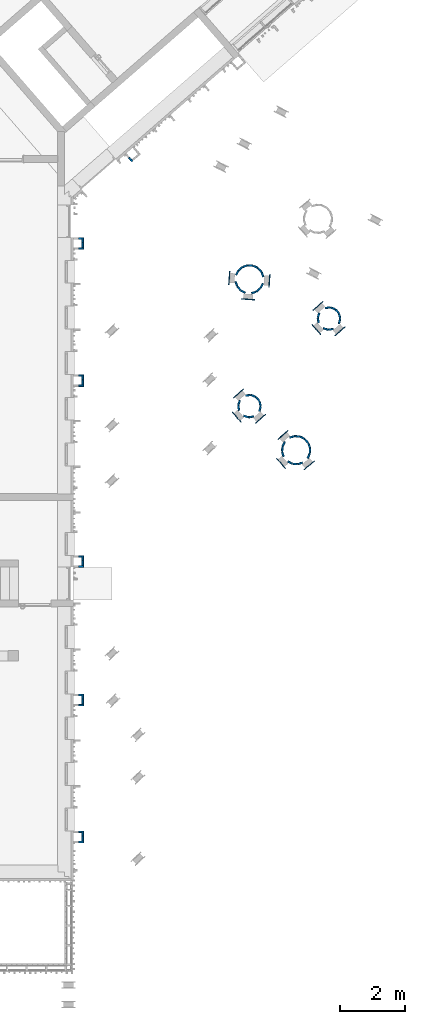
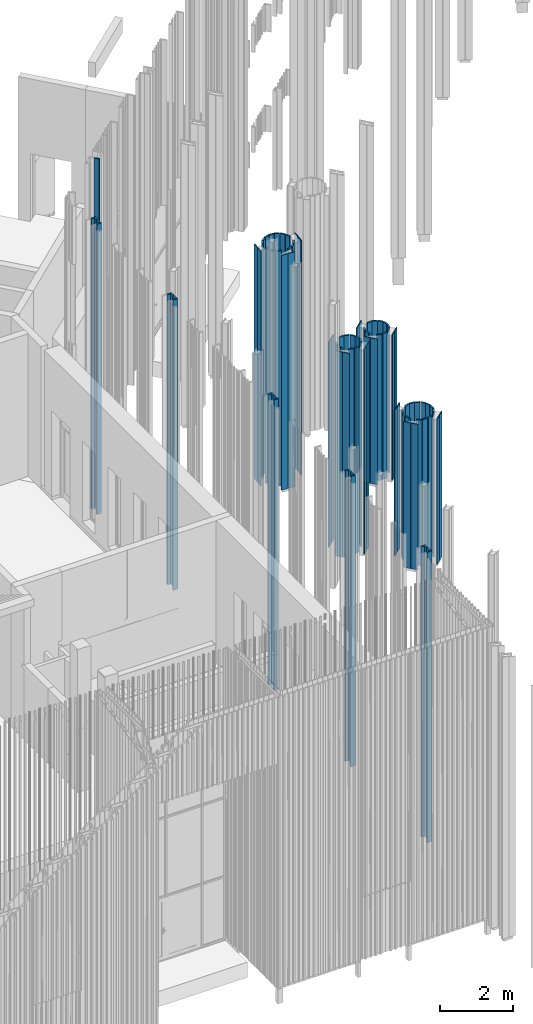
# One storey, part 18 of 390: 101 walls.
"""IFC2X3 building model written with IfcOpenShell, lengths in millimetres."""

from ifc_helpers import new_model, entity, si_unit, converted_unit, derived_unit, money_unit, direction, frame, origin_with_axes, origin_2d_with_axis, place, context, subcontext, project, spatial, rectangle, extrude, material, type_object, element, save


model = new_model("IFC2X3")

# Units and contexts
model_context = context("Model", 3, precision=1e-05, world=origin_with_axes(), true_north=direction((0.0, 1.0)))
body_context = subcontext(model_context, "Body", "Model", "MODEL_VIEW")
ifc_project = project(units=[si_unit("LENGTHUNIT", "METRE", prefix="MILLI"), si_unit("AREAUNIT", "SQUARE_METRE"), si_unit("VOLUMEUNIT", "CUBIC_METRE"), converted_unit("PLANEANGLEUNIT", "DEGREE", entity("IfcPlaneAngleMeasure", 0.0174532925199), si_unit("PLANEANGLEUNIT", "RADIAN"), dimensions=[0, 0, 0, 0, 0, 0, 0]), si_unit("SOLIDANGLEUNIT", "STERADIAN"), money_unit("EUR"), converted_unit("TIMEUNIT", "Year", entity("IfcTimeMeasure", 31556926.0), si_unit("TIMEUNIT", "SECOND"), dimensions=[0, 0, 1, 0, 0, 0, 0]), si_unit("MASSUNIT", "GRAM", prefix="KILO"), si_unit("THERMODYNAMICTEMPERATUREUNIT", "DEGREE_CELSIUS"), si_unit("LUMINOUSINTENSITYUNIT", "LUMEN"), si_unit("ENERGYUNIT", "JOULE", prefix="MEGA"), derived_unit("THERMALCONDUCTANCEUNIT", [(si_unit("POWERUNIT", "WATT"), 1), (si_unit("LENGTHUNIT", "METRE"), -1), (si_unit("THERMODYNAMICTEMPERATUREUNIT", "KELVIN"), -1)]), derived_unit("SPECIFICHEATCAPACITYUNIT", [(si_unit("ENERGYUNIT", "JOULE"), 1), (si_unit("MASSUNIT", "GRAM", prefix="KILO"), -1), (si_unit("THERMODYNAMICTEMPERATUREUNIT", "KELVIN"), -1)]), derived_unit("MASSDENSITYUNIT", [(si_unit("MASSUNIT", "GRAM", prefix="KILO"), 1), (si_unit("VOLUMEUNIT", "CUBIC_METRE"), -1)])], contexts=[model_context])

# Site, building, storey
site_placement = place(None, origin_with_axes())
site = spatial("IfcSite", under=ifc_project, at=site_placement, Name="Site", CompositionType="ELEMENT")
building_placement = place(site_placement, origin_with_axes())
building = spatial("IfcBuilding", under=site, at=building_placement, Name="Building", CompositionType="ELEMENT")
storey_placement = place(building_placement, origin_with_axes())
storey = spatial("IfcBuildingStorey", under=building, at=storey_placement, Name="1 korrus", CompositionType="ELEMENT", Elevation=0.0)

# Walls
ifc_material_1 = material(Name="GENEERILINE - VÄLINE VOODER")
wall_type = type_object("IfcWallType", Name="Puitfassaadi ribisik", PredefinedType="NOTDEFINED")
for number, where, z_axis, x_axis in (
    (1, (147091.673209, 58083.9654411, 100.0), (0.0, 0.0, 1.0), (0.656079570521, -0.754691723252, 0.0)),
    (2, (146280.800229, 59016.742536, 100.0), (0.0, 0.0, 1.0), (-0.65605903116, 0.754709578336, 0.0)),
):
    element("IfcWall", number, at=place(storey_placement, frame(where, z_axis=z_axis, x_axis=x_axis)), inside=storey, type_object=wall_type, material=ifc_material_1, Name="GENEERILINE - VÄLINE VOODER", context=body_context, shape_type="SweptSolid", body=[
        extrude(rectangle(XDim=22.0, YDim=200.0, at=origin_2d_with_axis()), frame((0.0, 0.0, 0.0), z_axis=(0.0, 0.0, -1.0), x_axis=(-1.0, 0.0, 0.0)), (0.0, 0.0, -1.0), 4900.0),
    ])
wall_1_placement = place(storey_placement, frame((145799.103484, 63781.0930163, 100.0), z_axis=(0.0, 0.0, 1.0), x_axis=(0.99756594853, -0.0697293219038, 0.0)))
element("IfcWall", 3, at=wall_1_placement, inside=storey, type_object=wall_type, material=ifc_material_1, Name="GENEERILINE - VÄLINE VOODER", context=body_context, shape_type="SweptSolid", body=[
    extrude(rectangle(XDim=22.0, YDim=200.0, at=origin_2d_with_axis()), frame((0.0, 0.0, 0.0), z_axis=(0.0, 0.0, -1.0), x_axis=(-1.0, 0.0, 0.0)), (0.0, 0.0, -1.0), 7900.0),
])
ifc_material_2 = material(Name="Site specified")
for number, where, z_axis, x_axis, name in (
    (4, (140067.000054, 46721.8243845, 100.000000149), (0.0, 0.0, 1.0), (1.0, -1.92421320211e-07, 0.0), "Site specified"),
    (5, (140067.000053, 55171.824385, 100.000000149), (0.0, 0.0, 1.0), (1.0, -1.92421320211e-07, 0.0), "Site specified"),
):
    element("IfcWall", number, at=place(storey_placement, frame(where, z_axis=z_axis, x_axis=x_axis)), inside=storey, type_object=wall_type, material=ifc_material_2, Name=name, context=body_context, shape_type="SweptSolid", body=[
        extrude(rectangle(XDim=50.0, YDim=150.0, at=origin_2d_with_axis()), origin_with_axes(), (0.0, 0.0, 1.0), 9764.99999475),
    ])
wall_2_placement = place(storey_placement, frame((139992.000027, 64971.9999692, 100.000000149), z_axis=(0.0, 0.0, 1.0), x_axis=(-1.92421249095e-07, -1.0, 0.0)))
element("IfcWall", 6, at=wall_2_placement, inside=storey, type_object=wall_type, material=ifc_material_2, Name="Site specified", context=body_context, shape_type="SweptSolid", body=[
    extrude(rectangle(XDim=50.0, YDim=100.000069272, at=origin_2d_with_axis()), origin_with_axes(), (0.0, 0.0, 1.0), 9764.99999475),
])
wall_3_placement = place(storey_placement, frame((140067.000052, 64921.9999223, 100.000000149), z_axis=(0.0, 0.0, 1.0), x_axis=(1.0, -1.92421320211e-07, 0.0)))
element("IfcWall", 7, at=wall_3_placement, inside=storey, type_object=wall_type, material=ifc_material_2, Name="Site specified", context=body_context, shape_type="SweptSolid", body=[
    extrude(rectangle(XDim=50.0, YDim=150.0, at=origin_2d_with_axis()), origin_with_axes(), (0.0, 0.0, 1.0), 9764.99999475),
])
wall_4_placement = place(storey_placement, frame((141534.480156, 67393.0355315, 100.0), z_axis=(0.0, 0.0, 1.0), x_axis=(-0.754709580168, -0.656059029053, 0.0)))
element("IfcWall", 8, at=wall_4_placement, inside=storey, type_object=wall_type, material=ifc_material_2, Name="Site specified", context=body_context, shape_type="SweptSolid", body=[
    extrude(rectangle(XDim=50.0, YDim=150.0, at=origin_2d_with_axis()), origin_with_axes(), (0.0, 0.0, 1.0), 9764.9999949),
])
for number, where, z_axis, x_axis, name in (
    (9, (140067.000053, 60715.0584355, 100.000000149), (0.0, 0.0, 1.0), (1.0, -1.92421320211e-07, 0.0), "Site specified"),
    (10, (140067.000023, 60560.0584355, 100.000000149), (0.0, 0.0, 1.0), (1.0, -1.92421320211e-07, 0.0), "Site specified"),
):
    element("IfcWall", number, at=place(storey_placement, frame(where, z_axis=z_axis, x_axis=x_axis)), inside=storey, type_object=wall_type, material=ifc_material_2, Name=name, context=body_context, shape_type="SweptSolid", body=[
        extrude(rectangle(XDim=50.0, YDim=150.0, at=origin_2d_with_axis()), origin_with_axes(), (0.0, 0.0, 1.0), 9764.99999475),
    ])
for number, where, z_axis, x_axis, name in (
    (11, (139992.000029, 46771.8244314, 100.000000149), (0.0, 0.0, 1.0), (-1.92421249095e-07, -1.0, 0.0), "Site specified"),
    (12, (139992.000028, 60765.0584824, 100.000000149), (0.0, 0.0, 1.0), (-1.92421249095e-07, -1.0, 0.0), "Site specified"),
):
    element("IfcWall", number, at=place(storey_placement, frame(where, z_axis=z_axis, x_axis=x_axis)), inside=storey, type_object=wall_type, material=ifc_material_2, Name=name, context=body_context, shape_type="SweptSolid", body=[
        extrude(rectangle(XDim=50.0, YDim=100.000069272, at=origin_2d_with_axis()), origin_with_axes(), (0.0, 0.0, 1.0), 9764.99999475),
    ])
wall_5_placement = place(storey_placement, frame((140067.000024, 46566.8243845, 100.000000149), z_axis=(0.0, 0.0, 1.0), x_axis=(1.0, -1.92421320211e-07, 0.0)))
element("IfcWall", 13, at=wall_5_placement, inside=storey, type_object=wall_type, material=ifc_material_2, Name="Site specified", context=body_context, shape_type="SweptSolid", body=[
    extrude(rectangle(XDim=50.0, YDim=150.0, at=origin_2d_with_axis()), origin_with_axes(), (0.0, 0.0, 1.0), 9764.99999475),
])
wall_6_placement = place(storey_placement, frame((145784.460327, 63571.6041671, 100.0), z_axis=(0.0, 0.0, 1.0), x_axis=(0.99756594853, -0.0697293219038, 0.0)))
element("IfcWall", 14, at=wall_6_placement, inside=storey, type_object=wall_type, material=ifc_material_1, Name="GENEERILINE - VÄLINE VOODER", context=body_context, shape_type="SweptSolid", body=[
    extrude(rectangle(XDim=22.0, YDim=200.0, at=origin_2d_with_axis()), frame((0.0, 0.0, 0.0), z_axis=(0.0, 0.0, -1.0), x_axis=(-1.0, 0.0, 0.0)), (0.0, 0.0, -1.0), 7900.0),
])
wall_7_placement = place(storey_placement, frame((140017.000003, 60455.0584452, 100.000000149), z_axis=(0.0, 0.0, 1.0), x_axis=(-1.92421249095e-07, -1.0, 0.0)))
element("IfcWall", 15, at=wall_7_placement, inside=storey, type_object=wall_type, material=ifc_material_2, Name="Site specified", context=body_context, shape_type="SweptSolid", body=[
    extrude(rectangle(XDim=50.0, YDim=150.0, at=origin_2d_with_axis()), origin_with_axes(), (0.0, 0.0, 1.0), 9764.99999475),
])
wall_8_placement = place(storey_placement, frame((139992.000028, 50971.8244314, 100.000000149), z_axis=(0.0, 0.0, 1.0), x_axis=(-1.92421249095e-07, -1.0, 0.0)))
element("IfcWall", 16, at=wall_8_placement, inside=storey, type_object=wall_type, material=ifc_material_2, Name="Site specified", context=body_context, shape_type="SweptSolid", body=[
    extrude(rectangle(XDim=50.0, YDim=100.000069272, at=origin_2d_with_axis()), origin_with_axes(), (0.0, 0.0, 1.0), 9764.99999475),
])
for number, where, z_axis, x_axis, name in (
    (17, (140067.000053, 50921.8243845, 100.000000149), (0.0, 0.0, 1.0), (1.0, -1.92421320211e-07, 0.0), "Site specified"),
    (18, (140017.000004, 46461.8243941, 100.000000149), (0.0, 0.0, 1.0), (-1.92421249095e-07, -1.0, 0.0), "Site specified"),
):
    element("IfcWall", number, at=place(storey_placement, frame(where, z_axis=z_axis, x_axis=x_axis)), inside=storey, type_object=wall_type, material=ifc_material_2, Name=name, context=body_context, shape_type="SweptSolid", body=[
        extrude(rectangle(XDim=50.0, YDim=150.0, at=origin_2d_with_axis()), origin_with_axes(), (0.0, 0.0, 1.0), 9764.99999475),
    ])
for number, where, z_axis, x_axis in (
    (19, (144774.423347, 63583.9117334, 100.0), (0.0, 0.0, 1.0), (0.947901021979, 0.318564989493, 0.0)),
    (20, (145362.57281, 64101.7832907, 100.0), (0.0, 0.0, 1.0), (-0.435980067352, -0.899956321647, 0.0)),
):
    element("IfcWall", number, at=place(storey_placement, frame(where, z_axis=z_axis, x_axis=x_axis)), inside=storey, type_object=wall_type, material=ifc_material_1, Name="GENEERILINE - VÄLINE VOODER", context=body_context, shape_type="SweptSolid", body=[
        extrude(rectangle(XDim=50.0, YDim=150.0, at=origin_2d_with_axis()), origin_with_axes(), (0.0, 0.0, 1.0), 7900.0),
    ])
wall_9_placement = place(storey_placement, frame((144551.507833, 63657.803792, 100.0), z_axis=(0.0, 0.0, 1.0), x_axis=(-0.99756405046, 0.0697564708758, 0.0)))
element("IfcWall", 21, at=wall_9_placement, inside=storey, type_object=wall_type, material=ifc_material_1, Name="GENEERILINE - VÄLINE VOODER", context=body_context, shape_type="SweptSolid", body=[
    extrude(rectangle(XDim=22.0, YDim=200.0, at=origin_2d_with_axis()), frame((0.0, 0.0, 0.0), z_axis=(0.0, 0.0, -1.0), x_axis=(-1.0, 0.0, 0.0)), (0.0, 0.0, -1.0), 7900.0),
])
wall_10_placement = place(storey_placement, frame((146124.908688, 58875.9820833, 100.0), z_axis=(0.0, 0.0, 1.0), x_axis=(-0.656059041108, 0.754709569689, 0.0)))
element("IfcWall", 22, at=wall_10_placement, inside=storey, type_object=wall_type, material=ifc_material_1, Name="GENEERILINE - VÄLINE VOODER", context=body_context, shape_type="SweptSolid", body=[
    extrude(rectangle(XDim=22.0, YDim=200.0, at=origin_2d_with_axis()), frame((0.0, 0.0, 0.0), z_axis=(0.0, 0.0, -1.0), x_axis=(-1.0, 0.0, 0.0)), (0.0, 0.0, -1.0), 4900.0),
])
wall_11_placement = place(storey_placement, frame((144981.539416, 63342.0617155, 100.0), z_axis=(0.0, 0.0, 1.0), x_axis=(0.460569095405, 0.887623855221, 0.0)))
element("IfcWall", 23, at=wall_11_placement, inside=storey, type_object=wall_type, material=ifc_material_1, Name="GENEERILINE - VÄLINE VOODER", context=body_context, shape_type="SweptSolid", body=[
    extrude(rectangle(XDim=50.0, YDim=150.0, at=origin_2d_with_axis()), origin_with_axes(), (0.0, 0.0, 1.0), 7900.0),
])
wall_12_placement = place(storey_placement, frame((144566.156692, 63867.2922426, 100.0), z_axis=(0.0, 0.0, 1.0), x_axis=(-0.99756405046, 0.0697564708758, 0.0)))
element("IfcWall", 24, at=wall_12_placement, inside=storey, type_object=wall_type, material=ifc_material_1, Name="GENEERILINE - VÄLINE VOODER", context=body_context, shape_type="SweptSolid", body=[
    extrude(rectangle(XDim=22.0, YDim=200.0, at=origin_2d_with_axis()), frame((0.0, 0.0, 0.0), z_axis=(0.0, 0.0, -1.0), x_axis=(-1.0, 0.0, 0.0)), (0.0, 0.0, -1.0), 7900.0),
])
for number, where, z_axis, x_axis in (
    (25, (145453.726053, 63396.4965134, 100.0), (0.0, 0.0, 1.0), (-0.650458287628, 0.759541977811, 0.0)),
    (26, (144802.028551, 63918.8272621, 100.0), (0.0, 0.0, 1.0), (0.882947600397, -0.469471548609, 0.0)),
    (27, (145206.927776, 64143.2665758, 100.0), (0.0, 0.0, 1.0), (-0.0697564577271, -0.99756405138, 0.0)),
    (28, (144904.096542, 64044.8707379, 100.0), (0.0, 0.0, 1.0), (0.642787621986, -0.766044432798, 0.0)),
    (29, (145492.360663, 64004.5210384, 100.0), (0.0, 0.0, 1.0), (-0.741363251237, -0.671103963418, 0.0)),
):
    element("IfcWall", number, at=place(storey_placement, frame(where, z_axis=z_axis, x_axis=x_axis)), inside=storey, type_object=wall_type, material=ifc_material_1, Name="GENEERILINE - VÄLINE VOODER", context=body_context, shape_type="SweptSolid", body=[
        extrude(rectangle(XDim=50.0, YDim=150.0, at=origin_2d_with_axis()), origin_with_axes(), (0.0, 0.0, 1.0), 7900.0),
    ])
for number, where, z_axis, x_axis, name in (
    (30, (140017.000003, 54911.8243946, 100.000000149), (0.0, 0.0, 1.0), (-1.92421249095e-07, -1.0, 0.0), "Site specified"),
    (31, (140067.000023, 55016.824385, 100.000000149), (0.0, 0.0, 1.0), (1.0, -1.92421320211e-07, 0.0), "Site specified"),
):
    element("IfcWall", number, at=place(storey_placement, frame(where, z_axis=z_axis, x_axis=x_axis)), inside=storey, type_object=wall_type, material=ifc_material_2, Name=name, context=body_context, shape_type="SweptSolid", body=[
        extrude(rectangle(XDim=50.0, YDim=150.0, at=origin_2d_with_axis()), origin_with_axes(), (0.0, 0.0, 1.0), 9764.99999475),
    ])
wall_13_placement = place(storey_placement, frame((139992.000028, 55221.8244319, 100.000000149), z_axis=(0.0, 0.0, 1.0), x_axis=(-1.92421249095e-07, -1.0, 0.0)))
element("IfcWall", 32, at=wall_13_placement, inside=storey, type_object=wall_type, material=ifc_material_2, Name="Site specified", context=body_context, shape_type="SweptSolid", body=[
    extrude(rectangle(XDim=50.0, YDim=100.000069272, at=origin_2d_with_axis()), origin_with_axes(), (0.0, 0.0, 1.0), 9764.99999475),
])
for number, where, z_axis, x_axis, name in (
    (33, (140017.000002, 64661.9999319, 100.000000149), (0.0, 0.0, 1.0), (-1.92421249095e-07, -1.0, 0.0), "Site specified"),
    (34, (140067.000022, 64766.9999223, 100.000000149), (0.0, 0.0, 1.0), (1.0, -1.92421320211e-07, 0.0), "Site specified"),
    (35, (140067.000023, 50766.8243845, 100.000000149), (0.0, 0.0, 1.0), (1.0, -1.92421320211e-07, 0.0), "Site specified"),
    (36, (140017.000003, 50661.8243941, 100.000000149), (0.0, 0.0, 1.0), (-1.92421249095e-07, -1.0, 0.0), "Site specified"),
):
    element("IfcWall", number, at=place(storey_placement, frame(where, z_axis=z_axis, x_axis=x_axis)), inside=storey, type_object=wall_type, material=ifc_material_2, Name=name, context=body_context, shape_type="SweptSolid", body=[
        extrude(rectangle(XDim=50.0, YDim=150.0, at=origin_2d_with_axis()), origin_with_axes(), (0.0, 0.0, 1.0), 9764.99999475),
    ])
for number, where, z_axis, x_axis in (
    (37, (145235.453421, 59500.3718897, 100.0), (0.0, 0.0, 1.0), (0.173648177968, -0.984807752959, 0.0)),
    (38, (145073.760588, 59511.678554, 100.0), (0.0, 0.0, 1.0), (-0.309016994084, -0.95105651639, 0.0)),
    (39, (145503.695253, 59905.6410903, 100.0), (0.0, 0.0, 1.0), (0.974370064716, 0.224951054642, 0.0)),
):
    element("IfcWall", number, at=place(storey_placement, frame(where, z_axis=z_axis, x_axis=x_axis)), inside=storey, type_object=wall_type, material=ifc_material_1, Name="GENEERILINE - VÄLINE VOODER", context=body_context, shape_type="SweptSolid", body=[
        extrude(rectangle(XDim=50.0, YDim=150.0, at=origin_2d_with_axis()), frame((0.0, 0.0, 0.0), z_axis=(0.0, 0.0, -1.0), x_axis=(-1.0, 0.0, 0.0)), (0.0, 0.0, -1.0), 6900.0),
    ])
wall_14_placement = place(storey_placement, frame((147298.328602, 62618.6351305, 100.0), z_axis=(0.0, 0.0, 1.0), x_axis=(-0.95105651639, 0.309016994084, 0.0)))
element("IfcWall", 40, at=wall_14_placement, inside=storey, type_object=wall_type, material=ifc_material_1, Name="GENEERILINE - VÄLINE VOODER", context=body_context, shape_type="SweptSolid", body=[
    extrude(rectangle(XDim=50.0, YDim=150.0, at=origin_2d_with_axis()), frame((0.0, 0.0, 0.0), z_axis=(0.0, 0.0, -1.0), x_axis=(-1.0, 0.0, 0.0)), (0.0, 0.0, -1.0), 4900.0),
])
for number, where, z_axis, x_axis in (
    (41, (147158.616193, 62255.8324843, 100.0), (0.0, 0.0, 1.0), (-0.754709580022, -0.656059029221, 0.0)),
    (42, (147199.16157, 62835.658384, 100.0), (0.0, 0.0, 1.0), (-0.65605902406, 0.754709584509, 0.0)),
):
    element("IfcWall", number, at=place(storey_placement, frame(where, z_axis=z_axis, x_axis=x_axis)), inside=storey, type_object=wall_type, material=ifc_material_1, Name="GENEERILINE - VÄLINE VOODER", context=body_context, shape_type="SweptSolid", body=[
        extrude(rectangle(XDim=22.0, YDim=200.0, at=origin_2d_with_axis()), frame((0.0, 0.0, 0.0), z_axis=(0.0, 0.0, -1.0), x_axis=(-1.0, 0.0, 0.0)), (0.0, 0.0, -1.0), 4900.0),
    ])
for number, where, z_axis, x_axis in (
    (43, (144847.370684, 59772.1103473, 100.0), (0.0, 0.0, 1.0), (-0.984807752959, -0.173648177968, 0.0)),
    (44, (144858.677348, 59933.80318, 100.0), (0.0, 0.0, 1.0), (-0.95105651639, 0.309016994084, 0.0)),
    (45, (145297.334544, 60143.0319299, 100.0), (0.0, 0.0, 1.0), (0.35836794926, 0.933580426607, 0.0)),
):
    element("IfcWall", number, at=place(storey_placement, frame(where, z_axis=z_axis, x_axis=x_axis)), inside=storey, type_object=wall_type, material=ifc_material_1, Name="GENEERILINE - VÄLINE VOODER", context=body_context, shape_type="SweptSolid", body=[
        extrude(rectangle(XDim=50.0, YDim=150.0, at=origin_2d_with_axis()), frame((0.0, 0.0, 0.0), z_axis=(0.0, 0.0, -1.0), x_axis=(-1.0, 0.0, 0.0)), (0.0, 0.0, -1.0), 6900.0),
    ])
wall_15_placement = place(storey_placement, frame((147287.021938, 62456.9422978, 100.0), z_axis=(0.0, 0.0, 1.0), x_axis=(-0.984807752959, -0.173648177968, 0.0)))
element("IfcWall", 46, at=wall_15_placement, inside=storey, type_object=wall_type, material=ifc_material_1, Name="GENEERILINE - VÄLINE VOODER", context=body_context, shape_type="SweptSolid", body=[
    extrude(rectangle(XDim=50.0, YDim=150.0, at=origin_2d_with_axis()), frame((0.0, 0.0, 0.0), z_axis=(0.0, 0.0, -1.0), x_axis=(-1.0, 0.0, 0.0)), (0.0, 0.0, -1.0), 4900.0),
])
for number, where, z_axis, x_axis in (
    (47, (147158.616193, 62255.8324843, 100.0), (0.0, 0.0, 1.0), (-0.754709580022, -0.656059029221, 0.0)),
    (48, (147296.38859, 62097.3434725, 100.0), (0.0, 0.0, 1.0), (-0.754709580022, -0.656059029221, 0.0)),
    (49, (148034.7035, 62194.5704936, 100.0), (0.0, 0.0, 1.0), (0.65605903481, -0.754709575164, 0.0)),
    (50, (147357.650583, 62973.430779, 100.0), (0.0, 0.0, 1.0), (-0.65605902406, 0.754709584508, 0.0)),
    (51, (147199.16157, 62835.658384, 100.0), (0.0, 0.0, 1.0), (-0.65605902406, 0.754709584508, 0.0)),
    (52, (147876.214489, 62056.7980963, 100.0), (0.0, 0.0, 1.0), (0.65605903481, -0.754709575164, 0.0)),
    (53, (146933.187947, 57946.1887313, 100.0), (0.0, 0.0, 1.0), (0.656079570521, -0.754691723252, 0.0)),
):
    element("IfcWall", number, at=place(storey_placement, frame(where, z_axis=z_axis, x_axis=x_axis)), inside=storey, type_object=wall_type, material=ifc_material_1, Name="GENEERILINE - VÄLINE VOODER", context=body_context, shape_type="SweptSolid", body=[
        extrude(rectangle(XDim=22.0, YDim=200.0, at=origin_2d_with_axis()), frame((0.0, 0.0, 0.0), z_axis=(0.0, 0.0, -1.0), x_axis=(-1.0, 0.0, 0.0)), (0.0, 0.0, -1.0), 4900.0),
    ])
for number, where, z_axis, x_axis in (
    (54, (144917.999328, 60288.5988286, 100.0), (0.0, 0.0, 1.0), (-0.65605902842, 0.754709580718, 0.0)),
    (55, (144759.510317, 60150.8264326, 100.0), (0.0, 0.0, 1.0), (-0.65605902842, 0.754709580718, 0.0)),
    (56, (145436.563234, 59371.966146, 100.0), (0.0, 0.0, 1.0), (0.656059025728, -0.754709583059, 0.0)),
    (57, (145595.052246, 59509.7385414, 100.0), (0.0, 0.0, 1.0), (0.656059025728, -0.754709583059, 0.0)),
    (58, (144718.96494, 59571.0005329, 100.0), (0.0, 0.0, 1.0), (-0.754709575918, -0.656059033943, 0.0)),
    (59, (144856.737337, 59412.5115219, 100.0), (0.0, 0.0, 1.0), (-0.754709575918, -0.656059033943, 0.0)),
):
    element("IfcWall", number, at=place(storey_placement, frame(where, z_axis=z_axis, x_axis=x_axis)), inside=storey, type_object=wall_type, material=ifc_material_1, Name="GENEERILINE - VÄLINE VOODER", context=body_context, shape_type="SweptSolid", body=[
        extrude(rectangle(XDim=22.0, YDim=200.0, at=origin_2d_with_axis()), frame((0.0, 0.0, 0.0), z_axis=(0.0, 0.0, -1.0), x_axis=(-1.0, 0.0, 0.0)), (0.0, 0.0, -1.0), 6900.0),
    ])
wall_16_placement = place(storey_placement, frame((145045.949052, 64123.5008713, 100.0), z_axis=(0.0, 0.0, 1.0), x_axis=(0.309017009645, -0.951056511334, 0.0)))
element("IfcWall", 60, at=wall_16_placement, inside=storey, type_object=wall_type, material=ifc_material_1, Name="GENEERILINE - VÄLINE VOODER", context=body_context, shape_type="SweptSolid", body=[
    extrude(rectangle(XDim=50.0, YDim=150.0, at=origin_2d_with_axis()), origin_with_axes(), (0.0, 0.0, 1.0), 7900.0),
])
for number, where, z_axis, x_axis in (
    (61, (147576.106305, 62847.6173982, 100.0), (0.0, 0.0, 1.0), (-0.121869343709, 0.992546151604, 0.0)),
    (62, (147869.760244, 62734.8942122, 100.0), (0.0, 0.0, 1.0), (0.754709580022, 0.656059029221, 0.0)),
    (63, (147940.517687, 62428.4100574, 100.0), (0.0, 0.0, 1.0), (0.965925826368, -0.258819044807, 0.0)),
    (64, (147943.346507, 62590.4730408, 100.0), (0.0, 0.0, 1.0), (0.974370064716, 0.224951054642, 0.0)),
    (65, (147736.985798, 62827.8638804, 100.0), (0.0, 0.0, 1.0), (0.35836794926, 0.933580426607, 0.0)),
    (66, (147513.411842, 62196.5105045, 100.0), (0.0, 0.0, 1.0), (-0.309016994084, -0.95105651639, 0.0)),
    (67, (147675.104674, 62185.2038402, 100.0), (0.0, 0.0, 1.0), (0.173648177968, -0.984807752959, 0.0)),
):
    element("IfcWall", number, at=place(storey_placement, frame(where, z_axis=z_axis, x_axis=x_axis)), inside=storey, type_object=wall_type, material=ifc_material_1, Name="GENEERILINE - VÄLINE VOODER", context=body_context, shape_type="SweptSolid", body=[
        extrude(rectangle(XDim=50.0, YDim=150.0, at=origin_2d_with_axis()), frame((0.0, 0.0, 0.0), z_axis=(0.0, 0.0, -1.0), x_axis=(-1.0, 0.0, 0.0)), (0.0, 0.0, -1.0), 4900.0),
    ])
wall_17_placement = place(storey_placement, frame((146801.231519, 58858.6449636, 100.0), z_axis=(0.0, 0.0, 1.0), x_axis=(-0.453990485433, -0.891006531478, 0.0)))
element("IfcWall", 68, at=wall_17_placement, inside=storey, type_object=wall_type, material=ifc_material_1, Name="GENEERILINE - VÄLINE VOODER", context=body_context, shape_type="SweptSolid", body=[
    extrude(rectangle(XDim=50.0, YDim=150.0, at=origin_2d_with_axis()), origin_with_axes(), (0.0, 0.0, 1.0), 4900.0),
])
for number, where, z_axis, x_axis in (
    (69, (145029.567078, 63112.1268264, 100.0), (0.0, 0.0, 1.0), (-0.0697564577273, -0.99756405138, 0.0)),
    (70, (145239.055529, 63097.4779702, 100.0), (0.0, 0.0, 1.0), (-0.0697564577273, -0.99756405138, 0.0)),
):
    element("IfcWall", number, at=place(storey_placement, frame(where, z_axis=z_axis, x_axis=x_axis)), inside=storey, type_object=wall_type, material=ifc_material_1, Name="GENEERILINE - VÄLINE VOODER", context=body_context, shape_type="SweptSolid", body=[
        extrude(rectangle(XDim=22.0, YDim=200.0, at=origin_2d_with_axis()), frame((0.0, 0.0, 0.0), z_axis=(0.0, 0.0, -1.0), x_axis=(-1.0, 0.0, 0.0)), (0.0, 0.0, -1.0), 7900.0),
    ])
for number, where, z_axis, x_axis in (
    (71, (145430.10899, 60050.0622617, 100.0), (0.0, 0.0, 1.0), (0.754709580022, 0.656059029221, 0.0)),
    (72, (145500.866433, 59743.5781069, 100.0), (0.0, 0.0, 1.0), (0.965925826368, -0.258819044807, 0.0)),
    (73, (145136.455051, 60162.7854477, 100.0), (0.0, 0.0, 1.0), (-0.121869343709, 0.992546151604, 0.0)),
):
    element("IfcWall", number, at=place(storey_placement, frame(where, z_axis=z_axis, x_axis=x_axis)), inside=storey, type_object=wall_type, material=ifc_material_1, Name="GENEERILINE - VÄLINE VOODER", context=body_context, shape_type="SweptSolid", body=[
        extrude(rectangle(XDim=50.0, YDim=150.0, at=origin_2d_with_axis()), frame((0.0, 0.0, 0.0), z_axis=(0.0, 0.0, -1.0), x_axis=(-1.0, 0.0, 0.0)), (0.0, 0.0, -1.0), 6900.0),
    ])
for number, where, z_axis, x_axis in (
    (74, (146993.942528, 58301.3791014, 100.0), (0.0, 0.0, 1.0), (-0.907428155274, 0.420207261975, 0.0)),
    (75, (147009.761676, 58619.4015089, 100.0), (0.0, 0.0, 1.0), (-0.944649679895, -0.328080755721, 0.0)),
    (76, (146203.126102, 58351.6285281, 100.0), (0.0, 0.0, 1.0), (0.953316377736, 0.301973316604, 0.0)),
):
    element("IfcWall", number, at=place(storey_placement, frame(where, z_axis=z_axis, x_axis=x_axis)), inside=storey, type_object=wall_type, material=ifc_material_1, Name="GENEERILINE - VÄLINE VOODER", context=body_context, shape_type="SweptSolid", body=[
        extrude(rectangle(XDim=50.0, YDim=150.0, at=origin_2d_with_axis()), origin_with_axes(), (0.0, 0.0, 1.0), 4900.0),
    ])
wall_18_placement = place(storey_placement, frame((146074.498268, 58155.0793232, 100.0), z_axis=(0.0, 0.0, 1.0), x_axis=(-0.754709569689, -0.656059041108, 0.0)))
element("IfcWall", 77, at=wall_18_placement, inside=storey, type_object=wall_type, material=ifc_material_1, Name="GENEERILINE - VÄLINE VOODER", context=body_context, shape_type="SweptSolid", body=[
    extrude(rectangle(XDim=22.0, YDim=200.0, at=origin_2d_with_axis()), frame((0.0, 0.0, 0.0), z_axis=(0.0, 0.0, -1.0), x_axis=(-1.0, 0.0, 0.0)), (0.0, 0.0, -1.0), 4900.0),
])
for number, where, z_axis, x_axis in (
    (78, (146575.50369, 58056.2333693, 100.0), (0.0, 0.0, 1.0), (0.0771338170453, 0.997020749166, 0.0)),
    (79, (146484.027581, 58886.396707, 100.0), (0.0, 0.0, 1.0), (0.292371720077, -0.956304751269, 0.0)),
):
    element("IfcWall", number, at=place(storey_placement, frame(where, z_axis=z_axis, x_axis=x_axis)), inside=storey, type_object=wall_type, material=ifc_material_1, Name="GENEERILINE - VÄLINE VOODER", context=body_context, shape_type="SweptSolid", body=[
        extrude(rectangle(XDim=50.0, YDim=150.0, at=origin_2d_with_axis()), origin_with_axes(), (0.0, 0.0, 1.0), 4900.0),
    ])
wall_19_placement = place(storey_placement, frame((145576.262784, 63865.7216629, 100.0), z_axis=(0.0, 0.0, 1.0), x_axis=(-0.93878000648, -0.344517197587, 0.0)))
element("IfcWall", 80, at=wall_19_placement, inside=storey, type_object=wall_type, material=ifc_material_1, Name="GENEERILINE - VÄLINE VOODER", context=body_context, shape_type="SweptSolid", body=[
    extrude(rectangle(XDim=50.0, YDim=150.0, at=origin_2d_with_axis()), origin_with_axes(), (0.0, 0.0, 1.0), 7900.0),
])
wall_20_placement = place(storey_placement, frame((146283.397698, 59013.7544819, 100.0), z_axis=(0.0, 0.0, 1.0), x_axis=(-0.656059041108, 0.754709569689, 0.0)))
element("IfcWall", 81, at=wall_20_placement, inside=storey, type_object=wall_type, material=ifc_material_1, Name="GENEERILINE - VÄLINE VOODER", context=body_context, shape_type="SweptSolid", body=[
    extrude(rectangle(XDim=22.0, YDim=200.0, at=origin_2d_with_axis()), frame((0.0, 0.0, 0.0), z_axis=(0.0, 0.0, -1.0), x_axis=(-1.0, 0.0, 0.0)), (0.0, 0.0, -1.0), 4900.0),
])
for number, where, z_axis, x_axis in (
    (82, (147032.760749, 58458.8528397, 100.0), (0.0, 0.0, 1.0), (-0.998765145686, 0.0496808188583, 0.0)),
    (83, (146227.686713, 58669.0954926, 100.0), (0.0, 0.0, 1.0), (0.895526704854, -0.445007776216, 0.0)),
):
    element("IfcWall", number, at=place(storey_placement, frame(where, z_axis=z_axis, x_axis=x_axis)), inside=storey, type_object=wall_type, material=ifc_material_1, Name="GENEERILINE - VÄLINE VOODER", context=body_context, shape_type="SweptSolid", body=[
        extrude(rectangle(XDim=50.0, YDim=150.0, at=origin_2d_with_axis()), origin_with_axes(), (0.0, 0.0, 1.0), 4900.0),
    ])
wall_21_placement = place(storey_placement, frame((146122.311217, 58878.9701394, 100.0), z_axis=(0.0, 0.0, 1.0), x_axis=(-0.65605903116, 0.754709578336, 0.0)))
element("IfcWall", 84, at=wall_21_placement, inside=storey, type_object=wall_type, material=ifc_material_1, Name="GENEERILINE - VÄLINE VOODER", context=body_context, shape_type="SweptSolid", body=[
    extrude(rectangle(XDim=22.0, YDim=200.0, at=origin_2d_with_axis()), frame((0.0, 0.0, 0.0), z_axis=(0.0, 0.0, -1.0), x_axis=(-1.0, 0.0, 0.0)), (0.0, 0.0, -1.0), 4900.0),
])
wall_22_placement = place(storey_placement, frame((146645.326746, 58903.349935, 100.0), z_axis=(0.0, 0.0, 1.0), x_axis=(-0.0871557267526, -0.996194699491, 0.0)))
element("IfcWall", 85, at=wall_22_placement, inside=storey, type_object=wall_type, material=ifc_material_1, Name="GENEERILINE - VÄLINE VOODER", context=body_context, shape_type="SweptSolid", body=[
    extrude(rectangle(XDim=50.0, YDim=150.0, at=origin_2d_with_axis()), origin_with_axes(), (0.0, 0.0, 1.0), 4900.0),
])
for number, where, z_axis, x_axis in (
    (86, (147296.38859, 62097.3434725, 100.0), (0.0, 0.0, 1.0), (-0.754709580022, -0.656059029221, 0.0)),
    (87, (148034.7035, 62194.5704936, 100.0), (0.0, 0.0, 1.0), (0.65605903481, -0.754709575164, 0.0)),
    (88, (147876.214489, 62056.7980963, 100.0), (0.0, 0.0, 1.0), (0.65605903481, -0.754709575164, 0.0)),
    (89, (147357.650583, 62973.430779, 100.0), (0.0, 0.0, 1.0), (-0.65605902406, 0.754709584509, 0.0)),
):
    element("IfcWall", number, at=place(storey_placement, frame(where, z_axis=z_axis, x_axis=x_axis)), inside=storey, type_object=wall_type, material=ifc_material_1, Name="GENEERILINE - VÄLINE VOODER", context=body_context, shape_type="SweptSolid", body=[
        extrude(rectangle(XDim=22.0, YDim=200.0, at=origin_2d_with_axis()), frame((0.0, 0.0, 0.0), z_axis=(0.0, 0.0, -1.0), x_axis=(-1.0, 0.0, 0.0)), (0.0, 0.0, -1.0), 4900.0),
    ])
for number, where, z_axis, x_axis in (
    (90, (146184.551744, 58512.7490599, 100.0), (0.0, 0.0, 1.0), (0.997020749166, -0.0771338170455, 0.0)),
    (91, (146929.03713, 58758.7922802, 100.0), (0.0, 0.0, 1.0), (-0.754709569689, -0.656059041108, 0.0)),
):
    element("IfcWall", number, at=place(storey_placement, frame(where, z_axis=z_axis, x_axis=x_axis)), inside=storey, type_object=wall_type, material=ifc_material_1, Name="GENEERILINE - VÄLINE VOODER", context=body_context, shape_type="SweptSolid", body=[
        extrude(rectangle(XDim=50.0, YDim=150.0, at=origin_2d_with_axis()), origin_with_axes(), (0.0, 0.0, 1.0), 4900.0),
    ])
for number, where, z_axis, x_axis in (
    (92, (147091.635677, 58083.9830818, 100.0), (0.0, 0.0, 1.0), (0.656059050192, -0.754709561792, 0.0)),
    (93, (146933.146669, 57946.2106813, 100.0), (0.0, 0.0, 1.0), (0.656059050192, -0.754709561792, 0.0)),
):
    element("IfcWall", number, at=place(storey_placement, frame(where, z_axis=z_axis, x_axis=x_axis)), inside=storey, type_object=wall_type, material=ifc_material_1, Name="GENEERILINE - VÄLINE VOODER", context=body_context, shape_type="SweptSolid", body=[
        extrude(rectangle(XDim=22.0, YDim=200.0, at=origin_2d_with_axis()), frame((0.0, 0.0, 0.0), z_axis=(0.0, 0.0, -1.0), x_axis=(-1.0, 0.0, 0.0)), (0.0, 0.0, -1.0), 4900.0),
    ])
wall_23_placement = place(storey_placement, frame((146419.157258, 58099.3683381, 100.0), z_axis=(0.0, 0.0, 1.0), x_axis=(0.445007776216, 0.895526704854, 0.0)))
element("IfcWall", 94, at=wall_23_placement, inside=storey, type_object=wall_type, material=ifc_material_1, Name="GENEERILINE - VÄLINE VOODER", context=body_context, shape_type="SweptSolid", body=[
    extrude(rectangle(XDim=50.0, YDim=150.0, at=origin_2d_with_axis()), origin_with_axes(), (0.0, 0.0, 1.0), 4900.0),
])
for number, where, z_axis, x_axis in (
    (95, (146122.311217, 58878.9701394, 100.0), (0.0, 0.0, 1.0), (-0.656059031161, 0.754709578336, 0.0)),
    (96, (146280.800229, 59016.742536, 100.0), (0.0, 0.0, 1.0), (-0.656059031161, 0.754709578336, 0.0)),
):
    element("IfcWall", number, at=place(storey_placement, frame(where, z_axis=z_axis, x_axis=x_axis)), inside=storey, type_object=wall_type, material=ifc_material_1, Name="GENEERILINE - VÄLINE VOODER", context=body_context, shape_type="SweptSolid", body=[
        extrude(rectangle(XDim=22.0, YDim=200.0, at=origin_2d_with_axis()), frame((0.0, 0.0, 0.0), z_axis=(0.0, 0.0, -1.0), x_axis=(-1.0, 0.0, 0.0)), (0.0, 0.0, -1.0), 4900.0),
    ])
wall_24_placement = place(storey_placement, frame((146736.624222, 58074.8077272, 100.0), z_axis=(0.0, 0.0, 1.0), x_axis=(-0.301973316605, 0.953316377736, 0.0)))
element("IfcWall", 97, at=wall_24_placement, inside=storey, type_object=wall_type, material=ifc_material_1, Name="GENEERILINE - VÄLINE VOODER", context=body_context, shape_type="SweptSolid", body=[
    extrude(rectangle(XDim=50.0, YDim=150.0, at=origin_2d_with_axis()), origin_with_axes(), (0.0, 0.0, 1.0), 4900.0),
])
wall_25_placement = place(storey_placement, frame((146212.270667, 57996.5903136, 100.0), z_axis=(0.0, 0.0, 1.0), x_axis=(-0.754709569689, -0.656059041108, 0.0)))
element("IfcWall", 98, at=wall_25_placement, inside=storey, type_object=wall_type, material=ifc_material_1, Name="GENEERILINE - VÄLINE VOODER", context=body_context, shape_type="SweptSolid", body=[
    extrude(rectangle(XDim=22.0, YDim=200.0, at=origin_2d_with_axis()), frame((0.0, 0.0, 0.0), z_axis=(0.0, 0.0, -1.0), x_axis=(-1.0, 0.0, 0.0)), (0.0, 0.0, -1.0), 4900.0),
])
for number, where, z_axis, x_axis in (
    (99, (144854.475941, 63442.8570817, 100.0), (0.0, 0.0, 1.0), (0.759541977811, 0.650458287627, 0.0)),
    (100, (145312.671402, 63316.4439196, 100.0), (0.0, 0.0, 1.0), (-0.318564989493, 0.947901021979, 0.0)),
    (101, (145554.52142, 63523.5599884, 100.0), (0.0, 0.0, 1.0), (-0.887623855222, 0.460569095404, 0.0)),
):
    element("IfcWall", number, at=place(storey_placement, frame(where, z_axis=z_axis, x_axis=x_axis)), inside=storey, type_object=wall_type, material=ifc_material_1, Name="GENEERILINE - VÄLINE VOODER", context=body_context, shape_type="SweptSolid", body=[
        extrude(rectangle(XDim=50.0, YDim=150.0, at=origin_2d_with_axis()), origin_with_axes(), (0.0, 0.0, 1.0), 7900.0),
    ])

save(model, "model.ifc")
